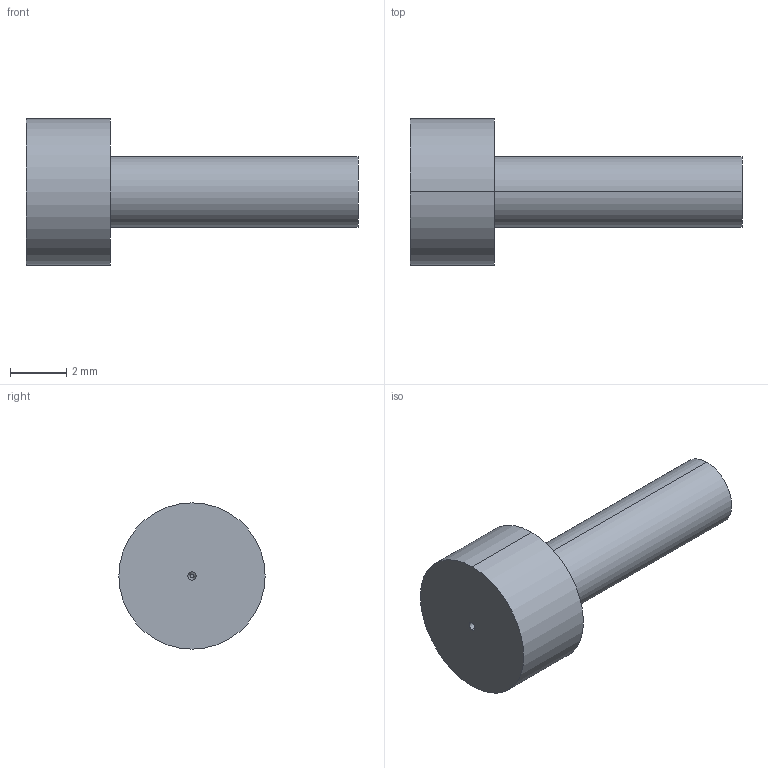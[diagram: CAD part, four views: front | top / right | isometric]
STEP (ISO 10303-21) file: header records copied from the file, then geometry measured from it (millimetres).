
FILE_DESCRIPTION (( 'STEP AP214' ), '1' );
FILE_NAME ('BR1302-10.STEP', '2020-06-15T17:17:59', ( 'August' ), ( '' ), 'SwSTEP 2.0', 'SolidWorks 2018', '' );
FILE_SCHEMA (( 'AUTOMOTIVE_DESIGN' ));
Length unit declared in the file: millimetre
Products named in the file (1): BR1302-10
Bounding box: 11.8 x 5.2 x 5.2 mm (x, y, z)
Volume: 106.9 mm3; surface area: 160.8 mm2
Topology: 1 solids, 1 shells, 10 faces, 18 edges, 12 vertices
Faces by surface type: cylinder 4, plane 4, cone 2
Entity records: 288 total; most frequent: DIRECTION 52, CARTESIAN_POINT 41, ORIENTED_EDGE 36, AXIS2_PLACEMENT_3D 23, EDGE_CURVE 18, EDGE_LOOP 12, VERTEX_POINT 12, CIRCLE 12
